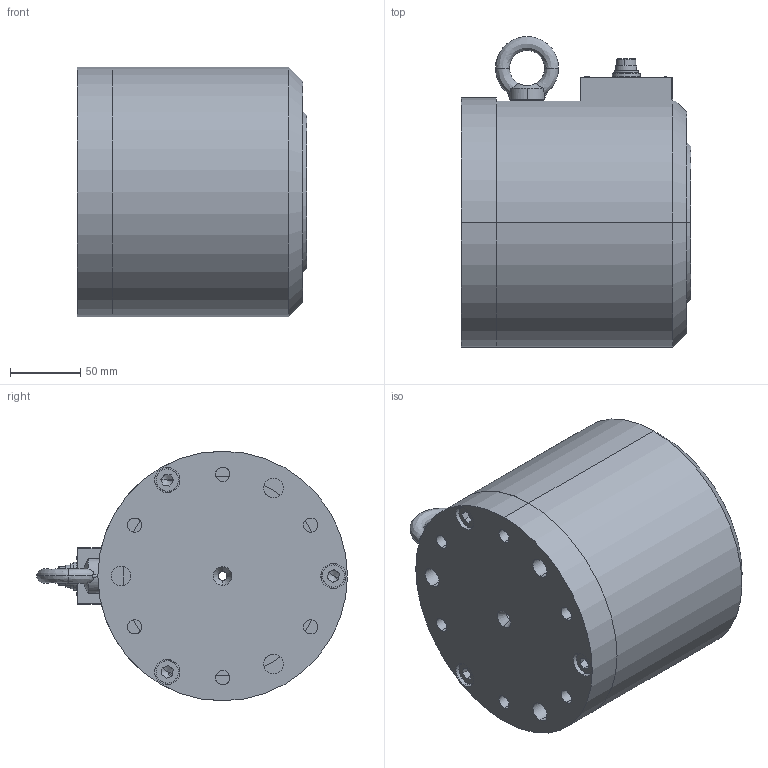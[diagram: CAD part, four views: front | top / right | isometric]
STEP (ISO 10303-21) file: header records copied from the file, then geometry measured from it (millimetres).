
FILE_DESCRIPTION (( 'STEP AP214' ), '1' );
FILE_NAME ('DRT4.STEP', '2020-02-12T07:43:16', ( 'nsi' ), ( '' ), 'SwSTEP 2.0', 'SolidWorks 2020', '' );
FILE_SCHEMA (( 'AUTOMOTIVE_DESIGN' ));
Length unit declared in the file: millimetre
Products named in the file (1): DRT4
Bounding box: 164 x 221.7 x 178 mm (x, y, z)
Surface area: 214818.2 mm2 (no closed solid volume)
Topology: 0 solids, 14 shells, 227 faces, 1147 edges, 917 vertices
Faces by surface type: plane 81, cylinder 60, cone 43, torus 33, bspline 6, sphere 4
Entity records: 16228 total; most frequent: CARTESIAN_POINT 5123, DIRECTION 1681, ORIENTED_EDGE 1613, EDGE_CURVE 1138, VERTEX_POINT 917, AXIS2_PLACEMENT_3D 644, CIRCLE 422, VECTOR 393
